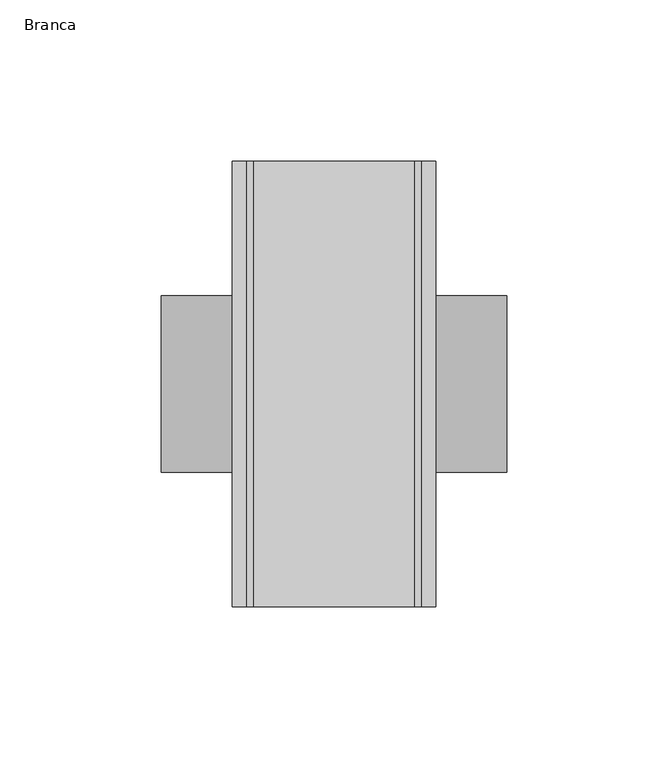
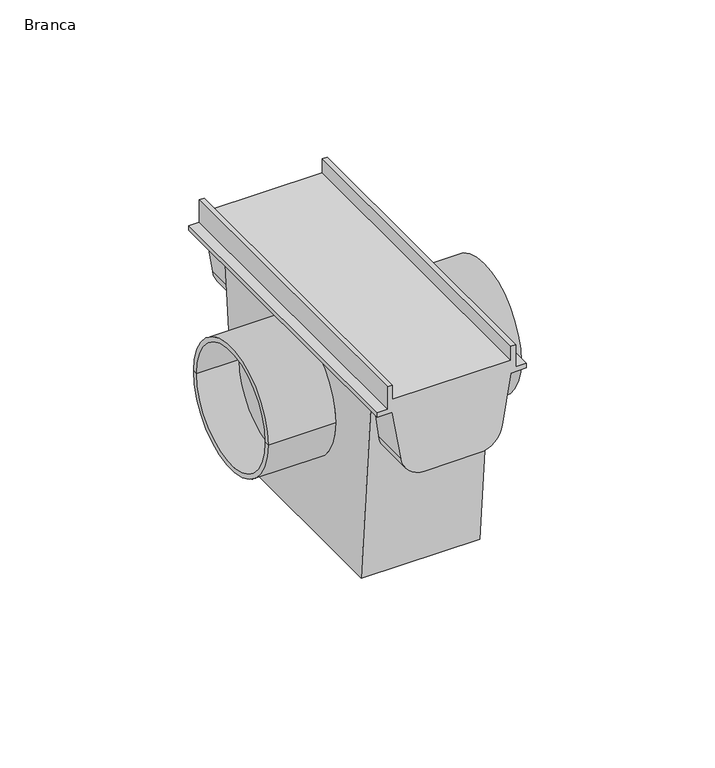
"""IFC4 building model written with IfcOpenShell, lengths in millimetres: pipe fitting geometry, AmancoWavin_ConexõesdeTubos_EsgotoZNãoUsarTerminalRalolinear : Branca."""

from ifc_helpers import new_model, si_unit, frame, origin, place, context, project, spatial, polyline, circle_curve, ellipse_curve, source, transform, mapped, element, save
from ifc_brep_helpers import plane_surface, cylinder_surface, revolved_surface, advanced_brep


def branca_4d6c81dc(model_context):
    return source(origin(), model_context, "Body", "AdvancedBrep", [
        advanced_brep(
        [(-53.5, 25.35, 0.0), (-53.5, 27.3, 0.0), (-53.5, -27.3, 0.0), (-53.5, -25.35, 0.0), (-35.5, -25.35, 0.0), (-35.5, 25.35, 0.0), (-35.5, 0.0, 0.0), (35.5, 25.35, 0.0), (35.5, 0.0, 0.0), (35.5, -25.35, 0.0), (53.5, -25.35, 0.0), (53.5, 25.35, 0.0), (53.5, -27.3, 0.0), (53.5, 27.3, 0.0), (-25.0, 27.3, 0.0), (-25.0, -27.3, 0.0), (25.0, -27.3, 0.0), (25.0, 27.3, 0.0), (25.0, 54.0, 30.0), (25.0, -54.0, 30.0), (25.0, -46.3009976, -58.0), (25.0, 46.3009976, -58.0), (-25.0, -54.0, 30.0), (-25.0, 54.0, 30.0), (-25.0, 46.3009976, -58.0), (-25.0, -46.3009976, -58.0), (-21.3121214, 52.0719341, 7.9621064), (-11.5480068, 51.2878514, -1.0), (11.5480068, 51.2878514, -1.0), (21.3121214, 52.0719341, 7.9621064), (21.3121214, -52.0719341, 7.9621064), (11.5480068, -51.2878514, -1.0), (-11.5480068, -51.2878514, -1.0), (-21.3121214, -52.0719341, 7.9621064), (-31.5, -69.0, 30.0), (-25.0, -69.0, 30.0), (-21.3121214, -69.0, 7.9621064), (-11.5480068, -69.0, -1.0), (11.5480068, -69.0, -1.0), (21.3121214, -69.0, 7.9621064), (25.0, -69.0, 30.0), (31.5, -69.0, 30.0), (31.5, -69.0, 32.0), (27.0, -69.0, 32.0), (27.0, -69.0, 42.0), (25.0, -69.0, 42.0), (25.0, -69.0, 35.8), (-25.0, -69.0, 35.8), (-25.0, -69.0, 42.0), (-27.0, -69.0, 42.0), (-27.0, -69.0, 32.0), (-31.5, -69.0, 32.0), (25.0, 69.0, 30.0), (31.5, 69.0, 30.0), (-31.5, 69.0, 30.0), (-25.0, 69.0, 30.0), (31.5, 69.0, 32.0), (27.0, 69.0, 32.0), (27.0, 69.0, 42.0), (25.0, 69.0, 42.0), (25.0, 69.0, 35.8), (-25.0, 69.0, 35.8), (-25.0, 69.0, 42.0), (-27.0, 69.0, 32.0), (-27.0, 69.0, 42.0), (-31.5, 69.0, 32.0), (21.3121214, 69.0, 7.9621064), (11.5480068, 69.0, -1.0), (-11.5480068, 69.0, -1.0), (-21.3121214, 69.0, 7.9621064)],
        [
            (0, 1),
            (1, 2, circle_curve(frame((-53.5, 0.0, 0.0), z_axis=(-1.0, 0.0, 0.0), x_axis=(0.0, -1.0, 0.0)), 27.3)),
            (2, 3),
            (3, 0, circle_curve(frame((-53.5, 0.0, 0.0), z_axis=(1.0, 0.0, 0.0), x_axis=(0.0, -1.0, 0.0)), 25.35)),
            (2, 1, circle_curve(frame((-53.5, 0.0, 0.0), z_axis=(-1.0, 0.0, 0.0), x_axis=(0.0, -1.0, 0.0)), 27.3)),
            (0, 3, circle_curve(frame((-53.5, 0.0, 0.0), z_axis=(1.0, 0.0, 0.0), x_axis=(0.0, -1.0, 0.0)), 25.35)),
            (3, 4),
            (4, 5, circle_curve(frame((-35.5, 0.0, 0.0), z_axis=(1.0, 0.0, 0.0), x_axis=(0.0, -1.0, 0.0)), 25.35)),
            (5, 0),
            (5, 4, circle_curve(frame((-35.5, 0.0, 0.0), z_axis=(1.0, 0.0, 0.0), x_axis=(0.0, -1.0, 0.0)), 25.35)),
            (4, 6),
            (6, 5),
            (7, 8),
            (8, 9),
            (9, 7, circle_curve(frame((35.5, 0.0, 0.0), z_axis=(1.0, 0.0, 0.0), x_axis=(0.0, -1.0, 0.0)), 25.35)),
            (7, 9, circle_curve(frame((35.5, 0.0, 0.0), z_axis=(1.0, 0.0, 0.0), x_axis=(0.0, -1.0, 0.0)), 25.35)),
            (9, 10),
            (10, 11, circle_curve(frame((53.5, 0.0, 0.0), z_axis=(1.0, 0.0, 0.0), x_axis=(0.0, -1.0, 0.0)), 25.35)),
            (11, 7),
            (11, 10, circle_curve(frame((53.5, 0.0, 0.0), z_axis=(1.0, 0.0, 0.0), x_axis=(0.0, -1.0, 0.0)), 25.35)),
            (10, 12),
            (12, 13, circle_curve(frame((53.5, 0.0, 0.0), z_axis=(1.0, 0.0, 0.0), x_axis=(0.0, -1.0, 0.0)), 27.3)),
            (13, 11),
            (13, 12, circle_curve(frame((53.5, 0.0, 0.0), z_axis=(1.0, 0.0, 0.0), x_axis=(0.0, -1.0, 0.0)), 27.3)),
            (1, 14),
            (14, 15, circle_curve(frame((-25.0, 0.0, 0.0), z_axis=(-1.0, 0.0, 0.0), x_axis=(0.0, -1.0, 0.0)), 27.3)),
            (15, 2),
            (12, 16),
            (16, 17, circle_curve(frame((25.0, 0.0, 0.0), z_axis=(1.0, 0.0, 0.0), x_axis=(0.0, -1.0, 0.0)), 27.3)),
            (17, 13),
            (15, 14, circle_curve(frame((-25.0, 0.0, 0.0), z_axis=(-1.0, 0.0, 0.0), x_axis=(0.0, -1.0, 0.0)), 27.3)),
            (17, 16, circle_curve(frame((25.0, 0.0, 0.0), z_axis=(1.0, 0.0, 0.0), x_axis=(0.0, -1.0, 0.0)), 27.3)),
            (18, 19),
            (19, 20),
            (20, 21),
            (21, 18),
            (22, 23),
            (23, 24),
            (24, 25),
            (25, 22),
            (21, 24),
            (23, 26),
            (26, 27, ellipse_curve(frame((-11.5480068, 52.1452403, 8.8), z_axis=(0.0, -0.9961946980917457, 0.08715574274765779), x_axis=(0.0, 0.08715574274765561, 0.9961946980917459)), 9.8374344, 9.8)),
            (27, 28),
            (28, 29, ellipse_curve(frame((11.5480068, 52.1452403, 8.8), z_axis=(0.0, -0.9961946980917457, 0.08715574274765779), x_axis=(0.0, 0.08715574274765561, 0.9961946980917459)), 9.8374344, 9.8)),
            (29, 18),
            (20, 25),
            (19, 30),
            (30, 31, ellipse_curve(frame((11.5480068, -52.1452403, 8.8), z_axis=(0.0, 0.9961946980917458, 0.08715574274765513), x_axis=(0.0, 0.08715574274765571, -0.9961946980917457)), 9.8374344, 9.8)),
            (31, 32),
            (32, 33, ellipse_curve(frame((-11.5480068, -52.1452403, 8.8), z_axis=(0.0, 0.9961946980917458, 0.08715574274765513), x_axis=(0.0, 0.08715574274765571, -0.9961946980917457)), 9.8374344, 9.8)),
            (33, 22),
            (34, 35),
            (35, 36),
            (36, 37, circle_curve(frame((-11.5480068, -69.0, 8.8), z_axis=(0.0, -1.0, 0.0), x_axis=(1.0, 0.0, 0.0)), 9.8)),
            (37, 38),
            (38, 39, circle_curve(frame((11.5480068, -69.0, 8.8), z_axis=(0.0, -1.0, 0.0), x_axis=(1.0, 0.0, 0.0)), 9.8)),
            (39, 40),
            (40, 41),
            (41, 42),
            (42, 43),
            (43, 44),
            (44, 45),
            (45, 46),
            (46, 47),
            (47, 48),
            (48, 49),
            (49, 50),
            (50, 51),
            (51, 34),
            (40, 19),
            (18, 52),
            (52, 53),
            (53, 41),
            (54, 55),
            (55, 23),
            (22, 35),
            (34, 54),
            (56, 42),
            (53, 56),
            (57, 43),
            (56, 57),
            (58, 44),
            (57, 58),
            (59, 45),
            (58, 59),
            (60, 46),
            (59, 60),
            (61, 47),
            (60, 61),
            (62, 48),
            (61, 62),
            (63, 50),
            (49, 64),
            (64, 63),
            (65, 51),
            (63, 65),
            (65, 54),
            (52, 66),
            (66, 67, circle_curve(frame((11.5480068, 69.0, 8.8), z_axis=(0.0, 1.0, 0.0), x_axis=(1.0, 0.0, 0.0)), 9.8)),
            (67, 68),
            (68, 69, circle_curve(frame((-11.5480068, 69.0, 8.8), z_axis=(0.0, 1.0, 0.0), x_axis=(1.0, 0.0, 0.0)), 9.8)),
            (69, 55),
            (64, 62),
            (69, 26),
            (33, 36),
            (67, 28),
            (27, 68),
            (37, 32),
            (31, 38),
            (39, 30),
            (29, 66),
        ],
        [
            plane_surface(frame((-53.5, 0.0, 0.0), z_axis=(-1.0, 0.0, 0.0), x_axis=(0.0, -1.0, 0.0))),
            revolved_surface(polyline([(-53.5, -25.35, 0.0), (-35.5, -25.35, 0.0)]), (2000.0, 0.0, 0.0), (-1.0, 0.0, 0.0)),
            plane_surface(frame((-35.5, 0.0, 0.0), z_axis=(-1.0, 0.0, 0.0), x_axis=(0.0, -1.0, 0.0))),
            plane_surface(frame((35.5, 0.0, 0.0), z_axis=(1.0, 0.0, 0.0), x_axis=(0.0, -1.0, 0.0))),
            revolved_surface(polyline([(35.5, -25.35, 0.0), (53.5, -25.35, 0.0)]), (2000.0, 0.0, 0.0), (-1.0, 0.0, 0.0)),
            plane_surface(frame((53.5, 0.0, 0.0), z_axis=(1.0, 0.0, 0.0), x_axis=(0.0, -1.0, 0.0))),
            cylinder_surface(frame((2000.0, 0.0, 0.0), z_axis=(-1.0, 0.0, 0.0), x_axis=(0.0, -1.0, 0.0)), 27.3),
            plane_surface(frame((25.0, 54.0, 30.0), z_axis=(1.0000000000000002, 0.0, 0.0), x_axis=(0.0, -0.08715574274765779, -0.9961946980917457))),
            plane_surface(frame((-25.0, 54.0, 30.0), z_axis=(-1.0000000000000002, 0.0, 0.0), x_axis=(0.0, 0.08715574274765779, 0.9961946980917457))),
            plane_surface(frame((25.0, 54.0, 30.0), z_axis=(0.0, 0.9961946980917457, -0.08715574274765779), x_axis=(-1.0, 0.0, 0.0))),
            plane_surface(frame((25.0, 46.3009976, -58.0), z_axis=(0.0, 0.0, -1.0), x_axis=(-1.0, 0.0, 0.0))),
            plane_surface(frame((25.0, -46.3009976, -58.0), z_axis=(0.0, -0.9961946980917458, -0.08715574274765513), x_axis=(-1.0, 0.0, 0.0))),
            plane_surface(frame((31.5, -69.0, 30.0), z_axis=(0.0, -1.0, 0.0), x_axis=(-1.0, 0.0, 0.0))),
            plane_surface(frame((-31.5, 69.0, 30.0), z_axis=(0.0, 0.0, -1.0), x_axis=(0.0, -1.0, 0.0))),
            plane_surface(frame((31.5, 69.0, 30.0), z_axis=(1.0, 0.0, 0.0), x_axis=(0.0, -1.0, 0.0))),
            plane_surface(frame((31.5, 69.0, 32.0), z_axis=(0.0, 0.0, 1.0), x_axis=(0.0, -1.0, 0.0))),
            plane_surface(frame((27.0, 69.0, 32.0), z_axis=(1.0, 0.0, 0.0), x_axis=(0.0, -1.0, 0.0))),
            plane_surface(frame((27.0, 69.0, 42.0), z_axis=(0.0, 0.0, 1.0), x_axis=(0.0, -1.0, 0.0))),
            plane_surface(frame((25.0, 69.0, 42.0), z_axis=(-1.0, 0.0, 0.0), x_axis=(0.0, -1.0, 0.0))),
            plane_surface(frame((25.0, 69.0, 35.8), z_axis=(0.0, 0.0, 1.0), x_axis=(0.0, -1.0, 0.0))),
            plane_surface(frame((-25.0, 69.0, 35.8), z_axis=(1.0, 0.0, 0.0), x_axis=(0.0, -1.0, 0.0))),
            plane_surface(frame((-27.0, 69.0, 42.0), z_axis=(-1.0, 0.0, 0.0), x_axis=(0.0, -1.0, 0.0))),
            plane_surface(frame((-27.0, 69.0, 32.0), z_axis=(0.0, 0.0, 1.0), x_axis=(0.0, -1.0, 0.0))),
            plane_surface(frame((-31.5, 69.0, 32.0), z_axis=(-1.0, 0.0, 0.0), x_axis=(0.0, -1.0, 0.0))),
            plane_surface(frame((31.5, 69.0, 30.0), z_axis=(0.0, 1.0, 0.0), x_axis=(1.0, 0.0, 0.0))),
            plane_surface(frame((-25.0, 69.0, 42.0), z_axis=(0.0, 0.0, 1.0), x_axis=(0.0, -1.0, 0.0))),
            plane_surface(frame((-25.0, 69.0, 30.0), z_axis=(-0.9862856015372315, 0.0, -0.16504760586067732), x_axis=(0.0, -1.0, 0.0))),
            plane_surface(frame((-11.5480068, 69.0, -1.0), z_axis=(0.0, 0.0, -1.0), x_axis=(0.0, -1.0, 0.0))),
            plane_surface(frame((21.3121214, 69.0, 7.9621064), z_axis=(0.9862856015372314, 0.0, -0.16504760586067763), x_axis=(0.0, -1.0, 0.0))),
            cylinder_surface(frame((-11.5480068, -69.0, 8.8), z_axis=(0.0, 1.0, 0.0), x_axis=(1.0, 0.0, 0.0)), 9.8),
            cylinder_surface(frame((11.5480068, -69.0, 8.8), z_axis=(0.0, 1.0, 0.0), x_axis=(1.0, 0.0, 0.0)), 9.8),
        ],
        [
            (0, [[1, 2, 3, 4]]),
            (0, [[5, -1, 6, -3]]),
            (1, [[7, 8, 9, -4]]),
            (1, [[-9, 10, -7, -6]]),
            (2, [[11, 12, -8]]),
            (2, [[-12, -11, -10]]),
            (3, [[13, 14, 15]]),
            (3, [[-13, 16, -14]]),
            (4, [[17, 18, 19, -15]]),
            (4, [[-19, 20, -17, -16]]),
            (5, [[21, 22, 23, -18]]),
            (5, [[-23, 24, -21, -20]]),
            (6, [[25, 26, 27, -2]]),
            (6, [[28, 29, 30, -22]]),
            (6, [[-27, 31, -25, -5]]),
            (6, [[-30, 32, -28, -24]]),
            (7, [[33, 34, 35, 36], [-32, -29]]),
            (8, [[37, 38, 39, 40], [-31, -26]]),
            (9, [[41, -38, 42, 43, 44, 45, 46, -36]]),
            (10, [[47, -39, -41, -35]]),
            (11, [[48, 49, 50, 51, 52, -40, -47, -34]]),
            (12, [[53, 54, 55, 56, 57, 58, 59, 60, 61, 62, 63, 64, 65, 66, 67, 68, 69, 70]]),
            (13, [[-59, 71, -33, 72, 73, 74]]),
            (13, [[75, 76, -37, 77, -53, 78]]),
            (14, [[79, -60, -74, 80]]),
            (15, [[81, -61, -79, 82]]),
            (16, [[83, -62, -81, 84]]),
            (17, [[85, -63, -83, 86]]),
            (18, [[87, -64, -85, 88]]),
            (19, [[89, -65, -87, 90]]),
            (20, [[91, -66, -89, 92]]),
            (21, [[93, -68, 94, 95]]),
            (22, [[96, -69, -93, 97]]),
            (23, [[-78, -70, -96, 98]]),
            (24, [[-73, 99, 100, 101, 102, 103, -75, -98, -97, -95, 104, -92, -90, -88, -86, -84, -82, -80]]),
            (25, [[-94, -67, -91, -104]]),
            (26, [[105, -42, -76, -103]]),
            (26, [[-77, -52, 106, -54]]),
            (27, [[107, -44, 108, -101]]),
            (27, [[109, -50, 110, -56]]),
            (28, [[111, -48, -71, -58]]),
            (28, [[-72, -46, 112, -99]]),
            (29, [[-106, -51, -109, -55]]),
            (29, [[-108, -43, -105, -102]]),
            (30, [[-110, -49, -111, -57]]),
            (30, [[-112, -45, -107, -100]]),
        ],
    ),
    ])


if __name__ == "__main__":
    model = new_model("IFC4")
    model_context = context("Model", 3, world=origin())
    ifc_project = project(units=[si_unit("LENGTHUNIT", "METRE", prefix="MILLI")], contexts=[model_context])
    site = spatial("IfcSite", under=ifc_project)
    building = spatial("IfcBuilding", under=site)
    placement = place(None, origin())
    branca_shape = branca_4d6c81dc(model_context)
    element("IfcPipeFitting", 1, ObjectType="AmancoWavin_ConexõesdeTubos_EsgotoZNãoUsarTerminalRalolinear : Branca", at=placement, inside=building, context=model_context, shape_type="MappedRepresentation", body=[
        mapped(branca_shape, transform((0.0, 0.0, 0.0), x_axis=(1.0, 0.0, 0.0), y_axis=(0.0, 1.0, 0.0), z_axis=(0.0, 0.0, 1.0))),
    ])
    save(model, "model.ifc")
